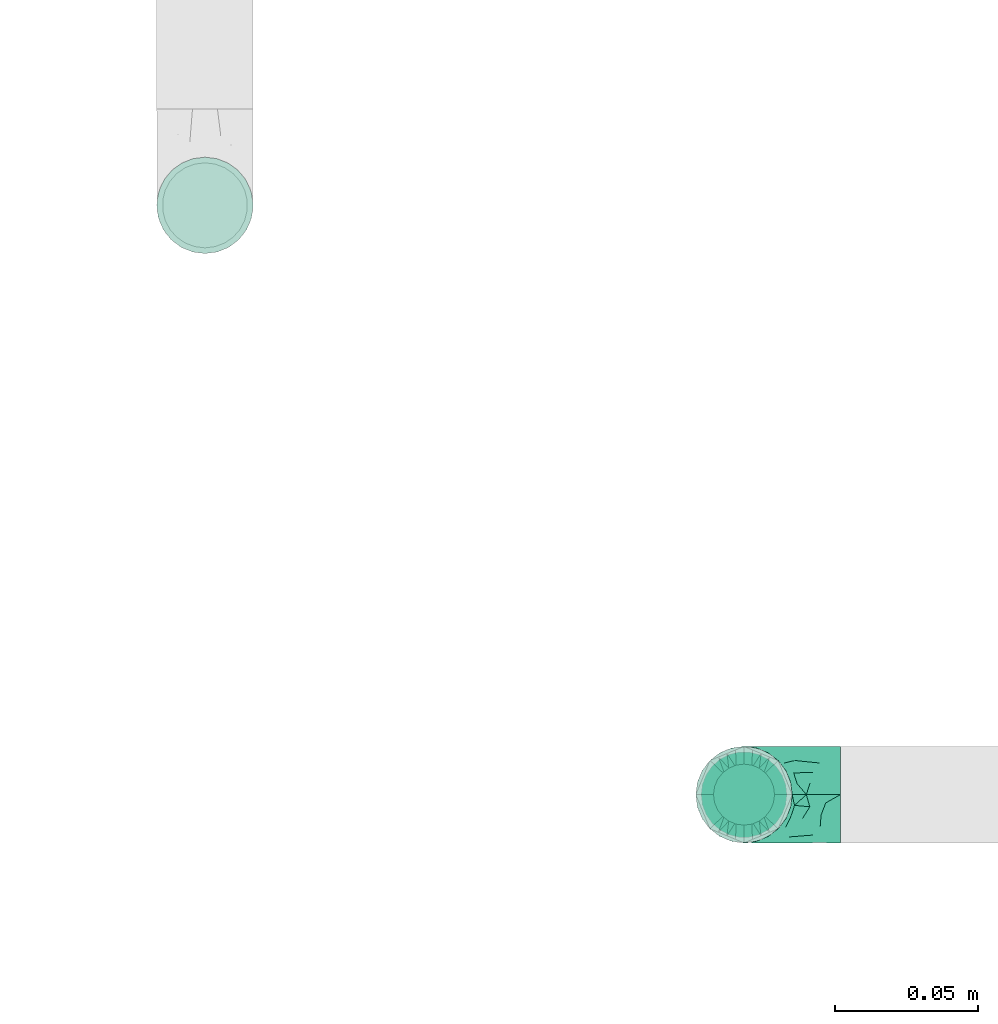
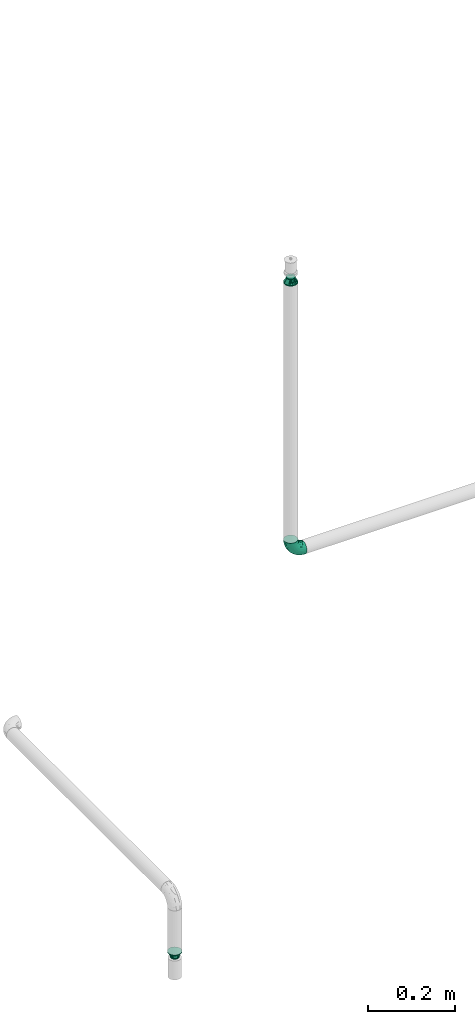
# One storey, part 22 of 94: 3 flow fittings.
"""IFC2X3 building model written with IfcOpenShell, lengths in millimetres."""

from ifc_helpers import new_model, entity, si_unit, converted_unit, derived_unit, direction, frame, origin_with_axes, place, context, subcontext, project, spatial, open_shell, surface_model, source, transform, mapped, type_object, element, save


model = new_model("IFC2X3")

# Units and contexts
model_context = context("Model", 3, precision=0.01, world=frame((0.0, 4.29681676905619e-09, 0.0)), true_north=direction((4.01073788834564e-13, 1.0)))
plan_context = context("Plan", 3, precision=0.01, world=frame((0.0, 4.29681676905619e-09, 0.0)), true_north=direction((4.01073788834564e-13, 1.0)))
body_context = subcontext(model_context, "Body", "Model", "MODEL_VIEW")
ifc_project = project(units=[converted_unit("PLANEANGLEUNIT", "DEGREE", entity("IfcPositiveLengthMeasure", 0.0174532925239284), si_unit("PLANEANGLEUNIT", "RADIAN"), dimensions=[0, 0, 0, 0, 0, 0, 0]), si_unit("AREAUNIT", "SQUARE_METRE"), si_unit("LENGTHUNIT", "METRE", prefix="MILLI"), si_unit("MASSUNIT", "GRAM", prefix="KILO"), si_unit("POWERUNIT", "WATT"), si_unit("PRESSUREUNIT", "PASCAL", prefix="KILO"), si_unit("FORCEUNIT", "NEWTON", prefix="KILO"), si_unit("ELECTRICVOLTAGEUNIT", "VOLT"), si_unit("ELECTRICCURRENTUNIT", "AMPERE"), si_unit("THERMODYNAMICTEMPERATUREUNIT", "DEGREE_CELSIUS"), si_unit("TIMEUNIT", "SECOND"), si_unit("VOLUMEUNIT", "CUBIC_METRE"), derived_unit("LINEARVELOCITYUNIT", [(si_unit("LENGTHUNIT", "METRE"), 1), (si_unit("TIMEUNIT", "SECOND"), -1)]), derived_unit("VOLUMETRICFLOWRATEUNIT", [(si_unit("VOLUMEUNIT", "CUBIC_METRE"), 1), (si_unit("TIMEUNIT", "SECOND"), -1)]), derived_unit("THERMALTRANSMITTANCEUNIT", [(si_unit("POWERUNIT", "WATT"), 1), (si_unit("THERMODYNAMICTEMPERATUREUNIT", "KELVIN"), -1), (si_unit("AREAUNIT", "SQUARE_METRE"), -1)]), derived_unit("SOUNDPRESSUREUNIT", [(si_unit("PRESSUREUNIT", "PASCAL"), 1)])], contexts=[model_context, plan_context])

# Site, building, storey
site_placement = place(None, frame((0.0, -4.29681676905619e-09, 0.0), z_axis=(0.0, 0.0, 1.0), x_axis=(1.0, 0.0, 0.0)))
site = spatial("IfcSite", under=ifc_project, at=site_placement, CompositionType="ELEMENT")
building_placement = place(site_placement, frame((0.0, 4.29681676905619e-09, 0.0), z_axis=(0.0, 0.0, 1.0), x_axis=(1.0, 0.0, 0.0)))
building = spatial("IfcBuilding", under=site, at=building_placement, Name="mc-building", CompositionType="ELEMENT")
storey_placement = place(building_placement, frame((0.0, 0.0, 210900.0), z_axis=(0.0, 0.0, 1.0), x_axis=(1.0, 0.0, 0.0)))
storey = spatial("IfcBuildingStorey", under=building, at=storey_placement, Name="Nivå F", CompositionType="ELEMENT", Elevation=210900.0)

# Flow fittings
pipe_fitting_type_1 = type_object("IfcPipeFittingType", Name="magi_pipe_fe_reducer_centric_short_NOR", PredefinedType="TRANSITION")
shared_shape_1 = source(origin_with_axes(), body_context, "Body", "SurfaceModel", [
    surface_model("IfcShellBasedSurfaceModel", [(14.4, 5.35, -9.26647), (14.4, 0.0, -10.7), (14.4, 2.76936, -10.33541), (14.4, 10.33541, -2.76936), (14.4, 7.56604, -7.56604), (14.4, -10.33541, -2.76936), (14.4, 9.26647, -5.35), (14.4, 0.0, 10.7), (14.4, -5.35, -9.26647), (14.4, -2.76936, -10.33541), (14.4, -7.56604, -7.56604), (14.4, -9.26647, -5.35), (14.4, 10.7, 0.0), (14.4, 10.33541, 2.76936), (14.4, 9.26647, 5.35), (14.4, 7.56604, 7.56604), (14.4, 2.76936, 10.33541), (14.4, 5.35, 9.26647), (14.4, -10.33541, 2.76936), (14.4, -7.56604, 7.56604), (14.4, -9.26647, 5.35), (14.4, -10.7, 0.0), (14.4, -2.76936, 10.33541), (14.4, -5.35, 9.26647), (12.4, 2.76936, 10.33541), (12.4, -10.33541, -2.76936), (12.4, 0.0, 10.7), (12.4, 5.35, 9.26647), (12.4, 7.56604, 7.56604), (12.4, 9.26647, 5.35), (12.4, 10.33541, 2.76936), (12.4, -10.33541, 2.76936), (12.4, -2.76936, 10.33541), (12.4, -7.56604, 7.56604), (12.4, -5.35, 9.26647), (12.4, -9.26647, 5.35), (12.4, -10.7, 0.0), (12.4, 10.33541, -2.76936), (12.4, 5.35, -9.26647), (12.4, 9.26647, -5.35), (12.4, 7.56604, -7.56604), (12.4, 2.76936, -10.33541), (12.4, -9.26647, -5.35), (12.4, -5.35, -9.26647), (12.4, -7.56604, -7.56604), (12.4, 0.0, -10.7), (12.4, -2.76936, -10.33541), (12.4, 10.7, 0.0), (-2.0, 11.9501, 11.9501), (-2.0, 0.0, 16.9), (-2.0, 4.37404, 16.32415), (-2.0, 8.45, 14.63583), (-2.0, 14.63583, 8.45), (-2.0, 16.32415, 4.37404), (-2.0, -16.32415, 4.37404), (-2.0, -8.45, 14.63583), (-2.0, -14.63583, 8.45), (-2.0, -11.9501, 11.9501), (-2.0, -4.37404, 16.32415), (-2.0, -16.32415, -4.37404), (-2.0, -16.9, 0.0), (-2.0, -8.45, -14.63583), (-2.0, 16.32415, -4.37404), (-2.0, 11.9501, -11.9501), (-2.0, 14.63583, -8.45), (-2.0, 8.45, -14.63583), (-2.0, 4.37404, -16.32415), (-2.0, 0.0, -16.9), (-2.0, -11.9501, -11.9501), (-2.0, -14.63583, -8.45), (-2.0, -4.37404, -16.32415), (-2.0, 16.9, 0.0), (0.0, 4.37404, -16.32415), (0.0, 8.45, -14.63583), (0.0, 11.9501, -11.9501), (0.0, 0.0, -16.9), (0.0, 16.32415, -4.37404), (0.0, 16.32415, 4.37404), (0.0, 14.63583, -8.45), (0.0, -8.45, -14.63583), (0.0, -4.37404, -16.32415), (0.0, -11.9501, -11.9501), (0.0, -16.32415, -4.37404), (0.0, -14.63583, -8.45), (0.0, -16.32415, 4.37404), (0.0, 16.9, 0.0), (0.0, 14.63583, 8.45), (0.0, 11.9501, 11.9501), (0.0, 4.37404, 16.32415), (0.0, 8.45, 14.63583), (0.0, 0.0, 16.9), (0.0, -14.63583, 8.45), (0.0, -16.9, 0.0), (0.0, -8.45, 14.63583), (0.0, -11.9501, 11.9501), (0.0, -4.37404, 16.32415), (12.4, 9.3625, -2.31662), (0.0, 14.42505, -5.97505), (0.0, 15.66253, -2.98753), (12.4, -6.6875, -6.94985), (0.0, -13.18758, -8.96258), (0.0, 2.98753, -15.66253), (12.4, 0.0, -9.26647), (12.4, 6.6875, -6.94985), (0.0, 8.96258, -13.18758), (12.4, -9.3625, -2.31662), (0.0, -15.66253, -2.98753), (0.0, -14.42505, -5.97505), (0.0, 5.97505, -14.42505), (0.0, -2.98753, -15.66253), (0.0, -8.96258, -13.18758), (0.0, 13.18758, -8.96258), (12.4, 8.025, -4.63324), (12.4, -2.675, -9.26647), (12.4, 2.675, -9.26647), (0.0, -5.97505, -14.42505), (12.4, -8.025, -4.63324), (12.4, -9.3625, 2.31662), (0.0, -14.42505, 5.97505), (0.0, -15.66253, 2.98753), (12.4, 6.6875, 6.94985), (0.0, 13.18758, 8.96258), (0.0, -2.98753, 15.66253), (12.4, 0.0, 9.26647), (12.4, -6.6875, 6.94985), (0.0, -8.96258, 13.18758), (12.4, 9.3625, 2.31662), (0.0, 15.66253, 2.98753), (0.0, 14.42505, 5.97505), (0.0, -5.97505, 14.42505), (0.0, 2.98753, 15.66253), (0.0, 8.96258, 13.18758), (0.0, -13.18758, 8.96258), (12.4, -8.025, 4.63324), (12.4, 2.675, 9.26647), (12.4, -2.675, 9.26647), (0.0, 5.97505, 14.42505), (12.4, 8.025, 4.63324)], [open_shell([[[0, 1, 2]], [[3, 0, 4]], [[5, 0, 3]], [[3, 4, 6]], [[7, 5, 3]], [[1, 8, 9]], [[1, 0, 8]], [[10, 5, 11]], [[5, 10, 8]], [[0, 5, 8]], [[3, 12, 13]], [[13, 14, 15]], [[13, 15, 16]], [[7, 3, 16]], [[16, 15, 17]], [[7, 18, 5]], [[18, 19, 20]], [[21, 5, 18]], [[19, 22, 23]], [[22, 19, 18]], [[7, 22, 18]], [[13, 16, 3]], [[24, 25, 26]], [[27, 25, 24]], [[28, 29, 30]], [[28, 25, 27]], [[31, 26, 25]], [[32, 33, 34]], [[33, 32, 31]], [[33, 31, 35]], [[32, 26, 31]], [[31, 25, 36]], [[30, 37, 28]], [[25, 28, 37]], [[38, 37, 39]], [[37, 38, 25]], [[38, 39, 40]], [[41, 25, 38]], [[42, 43, 44]], [[43, 42, 25]], [[43, 45, 46]], [[43, 25, 41]], [[41, 45, 43]], [[37, 30, 47]], [[25, 5, 36]], [[42, 11, 25]], [[8, 44, 43]], [[42, 44, 10]], [[9, 43, 46]], [[25, 11, 5]], [[5, 21, 36]], [[9, 8, 43]], [[10, 44, 8]], [[10, 11, 42]], [[1, 9, 46]], [[46, 45, 1]], [[41, 2, 45]], [[38, 0, 41]], [[6, 40, 39]], [[38, 40, 4]], [[3, 39, 37]], [[38, 4, 0]], [[0, 2, 41]], [[12, 3, 37]], [[6, 39, 3]], [[6, 4, 40]], [[47, 12, 37]], [[45, 2, 1]], [[30, 13, 47]], [[29, 14, 30]], [[17, 28, 27]], [[29, 28, 15]], [[16, 27, 24]], [[30, 14, 13]], [[13, 12, 47]], [[16, 17, 27]], [[15, 28, 17]], [[15, 14, 29]], [[7, 16, 24]], [[24, 26, 7]], [[32, 22, 26]], [[34, 23, 32]], [[20, 33, 35]], [[34, 33, 19]], [[18, 35, 31]], [[34, 19, 23]], [[23, 22, 32]], [[21, 18, 31]], [[20, 35, 18]], [[20, 19, 33]], [[36, 21, 31]], [[26, 22, 7]], [[48, 49, 50]], [[48, 50, 51]], [[48, 52, 53]], [[48, 53, 49]], [[49, 53, 54]], [[55, 56, 57]], [[55, 58, 49]], [[56, 55, 49]], [[49, 54, 56]], [[54, 59, 60]], [[54, 53, 61]], [[53, 62, 63]], [[63, 62, 64]], [[63, 65, 66]], [[61, 53, 63]], [[67, 63, 66]], [[59, 68, 69]], [[68, 59, 61]], [[61, 67, 70]], [[59, 54, 61]], [[63, 67, 61]], [[53, 71, 62]], [[72, 73, 74]], [[75, 72, 74]], [[74, 76, 77]], [[76, 74, 78]], [[74, 77, 79]], [[75, 79, 80]], [[75, 74, 79]], [[81, 82, 83]], [[82, 81, 79]], [[79, 84, 82]], [[77, 76, 85]], [[77, 86, 87]], [[77, 87, 88]], [[88, 84, 79]], [[88, 87, 89]], [[84, 88, 90]], [[90, 91, 84]], [[92, 82, 84]], [[91, 93, 94]], [[91, 90, 93]], [[93, 90, 95]], [[79, 77, 88]], [[59, 82, 60]], [[69, 83, 59]], [[79, 68, 61]], [[69, 68, 81]], [[80, 61, 70]], [[59, 83, 82]], [[82, 92, 60]], [[80, 79, 61]], [[81, 68, 79]], [[81, 83, 69]], [[75, 80, 70]], [[70, 67, 75]], [[66, 72, 67]], [[65, 73, 66]], [[78, 63, 64]], [[65, 63, 74]], [[76, 64, 62]], [[65, 74, 73]], [[73, 72, 66]], [[85, 76, 62]], [[78, 64, 76]], [[78, 74, 63]], [[71, 85, 62]], [[67, 72, 75]], [[53, 77, 71]], [[52, 86, 53]], [[89, 48, 51]], [[52, 48, 87]], [[88, 51, 50]], [[53, 86, 77]], [[77, 85, 71]], [[88, 89, 51]], [[87, 48, 89]], [[87, 86, 52]], [[90, 88, 50]], [[50, 49, 90]], [[58, 95, 49]], [[55, 93, 58]], [[91, 57, 56]], [[55, 57, 94]], [[84, 56, 54]], [[55, 94, 93]], [[93, 95, 58]], [[92, 84, 54]], [[91, 56, 84]], [[91, 94, 57]], [[60, 92, 54]], [[49, 95, 90]], [[27, 34, 47]], [[47, 34, 43]], [[43, 38, 47]], [[43, 34, 36]], [[90, 87, 94]], [[92, 94, 87]], [[87, 74, 92]], [[75, 92, 74]], [[81, 92, 75]], [[74, 87, 85]], [[96, 97, 98]], [[81, 99, 100]], [[101, 102, 75]], [[98, 85, 47]], [[74, 103, 104]], [[104, 103, 38]], [[105, 106, 107]], [[38, 108, 104]], [[102, 109, 75]], [[110, 99, 81]], [[47, 96, 98]], [[103, 111, 112]], [[109, 102, 113]], [[36, 92, 106]], [[102, 101, 114]], [[110, 115, 43]], [[96, 112, 97]], [[107, 116, 105]], [[36, 106, 105]], [[113, 115, 109]], [[43, 115, 113]], [[116, 107, 100]], [[108, 38, 114]], [[111, 103, 74]], [[111, 97, 112]], [[99, 110, 43]], [[116, 100, 99]], [[101, 108, 114]], [[117, 118, 119]], [[87, 120, 121]], [[122, 123, 90]], [[119, 92, 36]], [[94, 124, 125]], [[125, 124, 34]], [[126, 127, 128]], [[34, 129, 125]], [[123, 130, 90]], [[131, 120, 87]], [[36, 117, 119]], [[124, 132, 133]], [[130, 123, 134]], [[47, 85, 127]], [[123, 122, 135]], [[131, 136, 27]], [[117, 133, 118]], [[128, 137, 126]], [[47, 127, 126]], [[134, 136, 130]], [[27, 136, 134]], [[137, 128, 121]], [[129, 34, 135]], [[132, 124, 94]], [[132, 118, 133]], [[120, 131, 27]], [[137, 121, 120]], [[122, 129, 135]]])]),
])
flow_fitting_1_placement = place(storey_placement, frame((716188.9668, 435194.37907, 4357.64799999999), z_axis=(-0.000893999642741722, -0.99999960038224, 0.0), x_axis=(0.0, 0.0, 1.0)))
element("IfcFlowFitting", 1, at=flow_fitting_1_placement, inside=storey, type_object=pipe_fitting_type_1, Name="magi_pipe_fe_reducer_centric_short_NOR", context=body_context, shape_type="MappedRepresentation", body=[
    mapped(shared_shape_1, transform((0.0, 0.0, 0.0), scale=1.0)),
])
pipe_fitting_type_2 = type_object("IfcPipeFittingType", Name="magi_pipe_fe_elbow_short_001", PredefinedType="BEND")
shared_shape_2 = source(origin_with_axes(), body_context, "Body", "SurfaceModel", [
    surface_model("IfcShellBasedSurfaceModel", [(-33.8, 8.45, -14.63583), (-33.8, 4.37404, -16.32415), (-33.8, 11.9501, -11.9501), (-33.8, -11.9501, -11.9501), (-33.8, -14.63583, -8.45), (-33.8, -8.45, -14.63583), (-33.8, 0.0, -16.9), (-33.8, -4.37404, -16.32415), (-33.8, -4.37404, 16.32415), (-33.8, 0.0, 16.9), (-33.8, -8.45, 14.63583), (-33.8, 16.32415, -4.37404), (-33.8, 14.63583, -8.45), (-33.8, -16.32415, -4.37404), (-33.8, -16.9, 0.0), (-33.8, -16.32415, 4.37404), (-33.8, 11.9501, 11.9501), (-33.8, 14.63583, 8.45), (-33.8, 16.32415, 4.37404), (-33.8, 4.37404, 16.32415), (-33.8, 8.45, 14.63583), (-33.8, -14.63583, 8.45), (-33.8, -11.9501, 11.9501), (-33.8, 16.9, 0.0), (-11.9501, 33.8, -11.9501), (0.0, 33.8, -16.9), (-4.37404, 33.8, -16.32415), (-8.45, 33.8, -14.63583), (-14.63583, 33.8, -8.45), (-16.32415, 33.8, -4.37404), (14.63583, 33.8, -8.45), (8.45, 33.8, 14.63583), (16.32415, 33.8, -4.37404), (8.45, 33.8, -14.63583), (11.9501, 33.8, -11.9501), (4.37404, 33.8, -16.32415), (16.32415, 33.8, 4.37404), (16.9, 33.8, 0.0), (-11.9501, 33.8, 11.9501), (-16.32415, 33.8, 4.37404), (-14.63583, 33.8, 8.45), (-8.45, 33.8, 14.63583), (-4.37404, 33.8, 16.32415), (11.9501, 33.8, 11.9501), (14.63583, 33.8, 8.45), (0.0, 33.8, 16.9), (4.37404, 33.8, 16.32415), (-16.9, 33.8, 0.0), (-24.79389, -13.12945, 9.48721), (-22.19287, -9.75018, 12.59315), (-24.09897, -14.97035, 0.0), (-14.93934, -10.76256, 8.5297), (-22.46095, -14.75051, 5.27077), (14.75051, 22.46094, 5.27077), (11.9251, 13.23888, 4.33236), (13.04069, 14.39795, 0.0), (7.71387, 13.68847, 11.55891), (9.75018, 22.19287, 12.59315), (4.10169, 13.0571, 14.04018), (-24.84007, -6.39063, 15.2048), (-25.81779, -2.23879, 16.61097), (-23.66549, 2.59054, 16.87119), (-26.50418, 14.06512, 11.08152), (-24.21253, 17.66365, 7.72657), (-29.58514, 15.86957, 7.00283), (-6.17382, -7.5455, 0.0), (-13.23888, -11.9251, 4.33236), (-14.39795, -13.04069, 0.0), (-17.81434, 18.87373, 11.97104), (-6.30846, 29.15138, 15.82987), (-2.31622, 25.28002, 16.85849), (-29.23923, 10.23435, 13.77053), (-1.45439, -2.85688, 7.61475), (-0.28326, 0.34872, 10.09509), (-5.74484, -4.04709, 10.4122), (-4.41137, 11.31918, 16.59407), (-8.39727, 3.10034, 15.7812), (-1.72649, 9.1306, 15.53089), (-17.39909, 24.75344, 7.64977), (-26.19233, 20.0512, 0.0), (-28.14518, 17.29657, 4.25857), (-26.05147, 6.6281, 15.96447), (-5.87354, 16.61944, 16.86968), (-12.51807, 12.51807, 16.48937), (-10.06312, 7.38516, 16.81295), (-3.01882, 3.01882, 13.81718), (-13.0571, -4.10169, 14.04018), (-16.82553, -0.15166, 16.38038), (10.76256, 14.93934, 8.5297), (13.12945, 24.79389, 9.48721), (6.39063, 24.84007, 15.2048), (2.23879, 25.81779, 16.61097), (-13.68847, -7.71387, 11.55891), (14.97035, 24.09897, 0.0), (-7.30894, 22.89991, 16.09489), (-10.67958, 26.17414, 14.008), (-12.78295, 18.26924, 15.06066), (-13.88562, 22.45231, 12.93244), (-18.04944, 15.16501, 14.04434), (-23.11658, 20.08178, 4.02986), (-21.84989, 21.84989, 0.0), (-18.55817, 25.48277, 3.93065), (-13.95142, 26.94732, 11.03289), (-18.57098, 7.23906, 16.59756), (-16.58335, 4.14122, 16.89279), (-17.96666, 11.46709, 15.63151), (-9.84453, 17.54304, 16.18938), (0.15166, 16.82553, 16.38038), (-23.27207, 11.47201, 14.23154), (3.84842, 5.86994, 10.70473), (-8.0212, -7.54413, 7.93275), (1.00345, -2.19508, 4.57414), (5.13203, 3.01004, 5.90201), (5.24161, 1.7543, 2.53265), (8.70457, 7.04947, 3.99182), (-20.0512, 26.19233, 0.0), (8.4852, 8.76699, 7.09296), (-4.55488, -6.72064, 4.90681), (2.05031, -2.05031, 0.0), (7.5455, 6.17382, 0.0), (-26.75399, 2.1369, -16.845), (-14.61995, 24.73803, -11.27736), (-28.45274, -13.45335, -9.81895), (-26.00469, 6.63555, -15.96645), (-23.06726, 20.04573, -4.26202), (-13.80647, -4.26506, -14.17873), (-14.67501, -0.21081, -16.07388), (-6.7902, -0.2828, -13.8478), (-24.53586, 11.08096, -14.13417), (-26.72048, 14.00837, -11.05776), (10.0967, 24.44989, -12.75976), (5.83237, 21.40218, -15.03047), (6.66249, 28.54238, -15.38093), (-20.38182, 15.48705, -12.74596), (12.53268, 21.23441, -9.15363), (12.54494, 15.67504, -5.54878), (9.7522, 12.89279, -8.66343), (-15.65186, 19.64213, -13.01327), (-12.03528, 20.66498, -14.67665), (-15.61907, 15.61906, -14.83879), (-25.56551, -15.26206, 0.0), (-24.65452, -15.12934, -5.50955), (13.45335, 28.45274, -9.81895), (15.12934, 24.65452, -5.50955), (-7.35442, -8.31014, -5.65563), (-15.67504, -12.54494, -5.54878), (-24.44989, -10.0967, -12.75976), (0.16522, 0.41303, -9.71728), (-5.70658, -5.33066, -8.89288), (-5.13869, -2.37198, -11.53565), (-21.23441, -12.53268, -9.15363), (0.71146, 7.93863, -14.09382), (0.21081, 14.67501, -16.07388), (3.49291, 14.42772, -14.76381), (-24.89911, -2.13088, -16.591), (-28.54238, -6.66249, -15.38093), (-18.44386, -7.71663, -13.26957), (2.13088, 24.89911, -16.591), (-28.64342, 17.44413, -2.89318), (1.70017, -1.28722, -5.09504), (-16.57067, 26.81947, -7.36596), (-17.69055, 27.4263, -3.76405), (-12.89279, -9.7522, -8.66343), (-5.96611, 5.96611, -15.95814), (-20.53709, 20.09345, -8.28985), (-2.1369, 26.75399, -16.845), (-6.89872, 24.58781, -16.02578), (-10.60739, 26.53157, -13.98044), (-21.40218, -5.83237, -15.03047), (2.93192, 5.89627, -11.55917), (6.89393, 12.61842, -11.82233), (5.58056, 5.95325, -8.79455), (-3.99512, 18.61798, -16.89635), (8.31014, 7.35442, -5.65563), (-9.1383, 9.86148, -16.89041), (-9.99983, 16.02119, -16.39699), (-16.68576, 9.78031, -16.34199), (-27.01915, 16.61158, -7.12979), (15.26206, 25.56551, 0.0), (-18.61798, 3.99512, -16.89635), (-19.37495, 27.82495, 0.0), (-12.61842, -6.89393, -11.82233), (-18.84705, 19.14018, -10.96545)], [open_shell([[[0, 1, 2]], [[3, 4, 5]], [[6, 7, 5]], [[8, 9, 10]], [[1, 6, 2]], [[11, 12, 2]], [[4, 2, 6]], [[2, 13, 10]], [[5, 4, 6]], [[2, 4, 13]], [[14, 15, 13]], [[11, 2, 16]], [[11, 17, 18]], [[11, 16, 17]], [[19, 20, 16]], [[16, 2, 10]], [[19, 16, 10]], [[21, 22, 15]], [[22, 13, 15]], [[22, 10, 13]], [[10, 9, 19]], [[11, 18, 23]], [[24, 25, 26]], [[24, 26, 27]], [[24, 28, 29]], [[25, 24, 30]], [[31, 32, 24]], [[33, 30, 34]], [[33, 35, 25]], [[25, 30, 33]], [[32, 30, 24]], [[32, 36, 37]], [[38, 24, 29]], [[39, 40, 29]], [[40, 38, 29]], [[38, 41, 42]], [[38, 31, 24]], [[31, 38, 42]], [[36, 43, 44]], [[36, 32, 43]], [[31, 45, 46]], [[32, 31, 43]], [[42, 45, 31]], [[39, 29, 47]], [[22, 48, 49]], [[15, 14, 50]], [[51, 48, 52]], [[53, 54, 55]], [[48, 22, 21]], [[15, 52, 21]], [[56, 57, 58]], [[49, 10, 22]], [[49, 59, 10]], [[9, 60, 61]], [[62, 63, 64]], [[65, 66, 67]], [[57, 43, 31]], [[62, 68, 63]], [[42, 69, 70]], [[20, 71, 16]], [[8, 60, 9]], [[72, 73, 74]], [[75, 76, 77]], [[16, 62, 17]], [[40, 39, 78]], [[79, 23, 80]], [[64, 18, 17]], [[9, 61, 19]], [[19, 81, 20]], [[82, 83, 84]], [[74, 85, 86]], [[59, 86, 87]], [[88, 89, 57]], [[90, 31, 46]], [[44, 53, 36]], [[46, 45, 91]], [[54, 53, 88]], [[44, 89, 53]], [[92, 86, 49]], [[89, 44, 43]], [[10, 59, 8]], [[53, 55, 93]], [[93, 36, 53]], [[66, 52, 67]], [[94, 82, 70]], [[95, 96, 94]], [[97, 98, 96]], [[79, 99, 100]], [[41, 38, 95]], [[101, 100, 99]], [[68, 78, 63]], [[42, 41, 69]], [[23, 18, 80]], [[95, 94, 69]], [[78, 101, 99]], [[38, 102, 95]], [[70, 45, 42]], [[97, 95, 102]], [[15, 50, 52]], [[90, 57, 31]], [[57, 90, 58]], [[81, 19, 61]], [[103, 104, 84]], [[105, 81, 103]], [[38, 40, 102]], [[106, 96, 83]], [[94, 106, 82]], [[91, 70, 107]], [[71, 62, 16]], [[62, 108, 98]], [[86, 59, 49]], [[67, 52, 50]], [[60, 59, 87]], [[92, 49, 51]], [[86, 85, 76]], [[91, 90, 46]], [[37, 36, 93]], [[107, 77, 58]], [[107, 58, 90]], [[58, 85, 109]], [[110, 74, 92]], [[72, 74, 110]], [[66, 51, 52]], [[72, 111, 112]], [[113, 114, 112]], [[56, 88, 57]], [[52, 48, 21]], [[49, 48, 51]], [[57, 89, 43]], [[53, 89, 88]], [[103, 81, 61]], [[71, 81, 108]], [[18, 64, 80]], [[63, 78, 99]], [[47, 115, 101]], [[101, 115, 100]], [[40, 78, 102]], [[68, 102, 78]], [[97, 96, 95]], [[105, 98, 108]], [[103, 84, 83]], [[107, 70, 82]], [[76, 84, 87]], [[82, 84, 75]], [[70, 91, 45]], [[90, 91, 107]], [[59, 60, 8]], [[61, 60, 87]], [[73, 85, 74]], [[109, 112, 116]], [[103, 61, 104]], [[105, 103, 83]], [[96, 105, 83]], [[81, 105, 108]], [[96, 98, 105]], [[62, 98, 68]], [[61, 87, 104]], [[87, 84, 104]], [[86, 76, 87]], [[77, 76, 85]], [[58, 77, 85]], [[75, 77, 107]], [[82, 75, 107]], [[76, 75, 84]], [[81, 71, 20]], [[62, 71, 108]], [[95, 69, 41]], [[70, 69, 94]], [[62, 64, 17]], [[80, 63, 99]], [[63, 80, 64]], [[80, 99, 79]], [[66, 65, 117]], [[110, 66, 117]], [[112, 114, 116]], [[118, 117, 65]], [[110, 92, 51]], [[112, 111, 113]], [[119, 55, 54]], [[74, 86, 92]], [[58, 109, 56]], [[116, 56, 109]], [[66, 110, 51]], [[72, 110, 117]], [[111, 72, 117]], [[73, 112, 109]], [[117, 118, 111]], [[113, 111, 118]], [[118, 119, 113]], [[114, 119, 54]], [[119, 114, 113]], [[116, 54, 88]], [[54, 116, 114]], [[116, 88, 56]], [[112, 73, 72]], [[85, 73, 109]], [[78, 39, 101]], [[47, 101, 39]], [[102, 68, 97]], [[97, 68, 98]], [[82, 106, 83]], [[94, 96, 106]], [[1, 120, 6]], [[28, 24, 121]], [[3, 122, 4]], [[0, 123, 1]], [[100, 124, 79]], [[125, 126, 127]], [[128, 2, 129]], [[130, 131, 132]], [[128, 129, 133]], [[134, 135, 136]], [[137, 138, 139]], [[128, 0, 2]], [[67, 140, 141]], [[134, 142, 143]], [[141, 13, 4]], [[144, 65, 145]], [[146, 3, 5]], [[147, 148, 149]], [[145, 141, 150]], [[151, 152, 153]], [[154, 7, 6]], [[5, 155, 146]], [[150, 146, 156]], [[155, 5, 7]], [[143, 135, 134]], [[35, 157, 25]], [[23, 79, 158]], [[148, 159, 144]], [[160, 161, 29]], [[145, 162, 144]], [[163, 152, 151]], [[29, 28, 160]], [[121, 164, 160]], [[33, 34, 130]], [[25, 165, 26]], [[26, 165, 166]], [[142, 34, 30]], [[24, 27, 167]], [[124, 161, 164]], [[157, 35, 132]], [[155, 154, 168]], [[123, 0, 128]], [[169, 170, 171]], [[172, 157, 152]], [[26, 166, 27]], [[132, 35, 33]], [[142, 130, 34]], [[168, 154, 126]], [[136, 135, 173]], [[133, 137, 139]], [[2, 12, 129]], [[170, 131, 130]], [[30, 32, 143]], [[172, 174, 175]], [[176, 123, 128]], [[158, 177, 11]], [[135, 55, 119]], [[167, 27, 166]], [[175, 166, 172]], [[137, 167, 138]], [[122, 141, 4]], [[140, 14, 13]], [[32, 37, 178]], [[170, 130, 134]], [[152, 157, 131]], [[165, 157, 172]], [[153, 170, 151]], [[152, 163, 174]], [[168, 125, 156]], [[122, 146, 150]], [[120, 154, 6]], [[179, 174, 126]], [[179, 126, 154]], [[126, 163, 127]], [[162, 145, 150]], [[140, 13, 141]], [[32, 178, 143]], [[55, 143, 178]], [[177, 129, 12]], [[128, 133, 139]], [[176, 128, 139]], [[120, 123, 179]], [[121, 160, 28]], [[161, 100, 180]], [[166, 175, 138]], [[121, 24, 167]], [[161, 47, 29]], [[79, 124, 158]], [[124, 164, 177]], [[161, 124, 100]], [[136, 171, 170]], [[127, 163, 151]], [[147, 171, 159]], [[148, 144, 162]], [[127, 151, 169]], [[127, 181, 125]], [[129, 177, 164]], [[12, 11, 177]], [[159, 65, 144]], [[67, 141, 145]], [[143, 55, 135]], [[135, 119, 173]], [[123, 120, 1]], [[154, 120, 179]], [[157, 165, 25]], [[166, 165, 172]], [[172, 152, 174]], [[176, 139, 175]], [[126, 174, 163]], [[176, 174, 179]], [[174, 176, 175]], [[123, 176, 179]], [[150, 181, 162]], [[127, 149, 181]], [[181, 148, 162]], [[159, 148, 147]], [[171, 136, 173]], [[170, 134, 136]], [[159, 171, 173]], [[171, 147, 169]], [[169, 147, 149]], [[151, 170, 169]], [[164, 182, 129]], [[182, 121, 137]], [[181, 149, 148]], [[169, 149, 127]], [[182, 137, 133]], [[167, 137, 121]], [[166, 138, 167]], [[175, 139, 138]], [[129, 182, 133]], [[121, 182, 164]], [[161, 160, 164]], [[47, 161, 180]], [[177, 158, 124]], [[23, 158, 11]], [[130, 132, 33]], [[157, 132, 131]], [[143, 142, 30]], [[130, 142, 134]], [[154, 155, 7]], [[146, 155, 168]], [[146, 122, 3]], [[141, 122, 150]], [[152, 131, 153]], [[159, 119, 118]], [[67, 145, 65]], [[170, 153, 131]], [[119, 159, 173]], [[159, 118, 65]], [[156, 125, 181]], [[126, 125, 168]], [[150, 156, 181]], [[168, 156, 146]]])]),
])
flow_fitting_2_placement = place(storey_placement, frame((716188.9668, 435194.37907, 3600.0), z_axis=(0.0, 1.0, 0.0), x_axis=(-1.0, 0.0, 0.0)))
element("IfcFlowFitting", 2, at=flow_fitting_2_placement, inside=storey, type_object=pipe_fitting_type_2, Name="magi_pipe_fe_elbow_short_001", context=body_context, shape_type="MappedRepresentation", body=[
    mapped(shared_shape_2, transform((0.0, 0.0, 0.0), scale=1.0)),
])
shared_shape_3 = source(origin_with_axes(), body_context, "Body", "SurfaceModel", [
    surface_model("IfcShellBasedSurfaceModel", [(-2.0, -7.56604, -7.56604), (-2.0, -10.33541, -2.76936), (-2.0, -5.35, -9.26647), (-2.0, 5.35, -9.26647), (-2.0, 10.33541, -2.76936), (-2.0, 7.56604, -7.56604), (12.4, 11.9501, 11.9501), (12.4, 0.0, 16.9), (12.4, 11.9501, -11.9501), (12.4, 16.9, 0.0), (0.0, -10.7, 0.0), (0.0, -5.35, 9.26647), (0.0, -5.35, -9.26647), (0.0, 10.7, 0.0), (12.4, 15.66253, -2.98753), (12.4, 8.96258, -13.18758), (0.0, 6.6875, -6.94985), (12.4, -15.66253, -2.98753), (12.4, -16.9, 0.0), (12.4, 5.97505, -14.42505), (0.0, 5.35, -9.26647), (12.4, 14.42505, -5.97505), (0.0, 8.025, -4.63324), (0.0, 9.3625, -2.31662), (0.0, -9.3625, -2.31662), (0.0, -8.025, -4.63324), (12.4, -14.42505, -5.97505), (12.4, 13.18758, -8.96258), (12.4, -13.18758, -8.96258), (12.4, -11.9501, -11.9501), (0.0, -6.6875, -6.94985), (12.4, -8.96258, -13.18758), (12.4, -5.97505, -14.42505), (12.4, -15.66253, 2.98753), (12.4, -8.96258, 13.18758), (0.0, -6.6875, 6.94985), (12.4, -11.9501, 11.9501), (12.4, 15.66253, 2.98753), (12.4, -5.97505, 14.42505), (12.4, -14.42505, 5.97505), (0.0, -8.025, 4.63324), (0.0, -9.3625, 2.31662), (0.0, 9.3625, 2.31662), (0.0, 8.025, 4.63324), (12.4, 14.42505, 5.97505), (12.4, -13.18758, 8.96258), (12.4, 13.18758, 8.96258), (0.0, 6.6875, 6.94985), (12.4, 8.96258, 13.18758), (0.0, 5.35, 9.26647), (12.4, 5.97505, 14.42505), (14.4, 4.37404, -16.32415), (14.4, 8.45, -14.63583), (14.4, 11.9501, -11.9501), (14.4, -8.45, -14.63583), (14.4, 16.32415, -4.37404), (14.4, 16.32415, 4.37404), (14.4, 14.63583, -8.45), (14.4, 0.0, -16.9), (14.4, -4.37404, -16.32415), (14.4, -11.9501, -11.9501), (14.4, -16.32415, -4.37404), (14.4, -14.63583, -8.45), (14.4, -16.32415, 4.37404), (14.4, 16.9, 0.0), (14.4, 14.63583, 8.45), (14.4, 11.9501, 11.9501), (14.4, 4.37404, 16.32415), (14.4, 8.45, 14.63583), (14.4, 0.0, 16.9), (14.4, -14.63583, 8.45), (14.4, -16.9, 0.0), (14.4, -8.45, 14.63583), (14.4, -11.9501, 11.9501), (14.4, -4.37404, 16.32415), (12.4, 4.37404, 16.32415), (12.4, -14.63583, 8.45), (12.4, 16.32415, 4.37404), (12.4, 8.45, 14.63583), (12.4, 14.63583, 8.45), (12.4, -8.45, 14.63583), (12.4, -4.37404, 16.32415), (12.4, -16.32415, 4.37404), (12.4, -16.32415, -4.37404), (12.4, -8.45, -14.63583), (12.4, 16.32415, -4.37404), (12.4, 14.63583, -8.45), (12.4, 8.45, -14.63583), (12.4, 4.37404, -16.32415), (12.4, 0.0, -16.9), (12.4, -14.63583, -8.45), (12.4, -4.37404, -16.32415), (-2.0, 2.76936, 10.33541), (-2.0, 0.0, 10.7), (-2.0, 5.35, 9.26647), (-2.0, 7.56604, 7.56604), (-2.0, 9.26647, 5.35), (-2.0, 10.33541, 2.76936), (-2.0, -10.33541, 2.76936), (-2.0, -2.76936, 10.33541), (-2.0, -7.56604, 7.56604), (-2.0, -5.35, 9.26647), (-2.0, -9.26647, 5.35), (-2.0, -10.7, 0.0), (-2.0, 9.26647, -5.35), (-2.0, 2.76936, -10.33541), (-2.0, -9.26647, -5.35), (-2.0, 0.0, -10.7), (-2.0, -2.76936, -10.33541), (-2.0, 10.7, 0.0), (0.0, 0.0, -10.7), (0.0, 2.76936, -10.33541), (0.0, 10.33541, -2.76936), (0.0, 7.56604, -7.56604), (0.0, -10.33541, -2.76936), (0.0, 9.26647, -5.35), (0.0, 0.0, 10.7), (0.0, -2.76936, -10.33541), (0.0, -7.56604, -7.56604), (0.0, -9.26647, -5.35), (0.0, 10.33541, 2.76936), (0.0, 9.26647, 5.35), (0.0, 7.56604, 7.56604), (0.0, 2.76936, 10.33541), (0.0, -7.56604, 7.56604), (0.0, -10.33541, 2.76936), (0.0, -9.26647, 5.35), (0.0, -2.76936, 10.33541), (0.0, 2.675, -9.26647), (0.0, -2.675, -9.26647), (12.4, 2.98753, -15.66253), (0.0, 0.0, -9.26647), (12.4, -2.98753, -15.66253), (0.0, -2.675, 9.26647), (0.0, 2.675, 9.26647), (12.4, -2.98753, 15.66253), (0.0, 0.0, 9.26647), (12.4, 2.98753, 15.66253)], [open_shell([[[0, 1, 2]], [[3, 4, 5]], [[6, 7, 8]], [[8, 9, 6]], [[10, 11, 12]], [[13, 9, 14]], [[15, 16, 8]], [[17, 18, 10]], [[15, 19, 20]], [[21, 22, 23]], [[24, 25, 26]], [[22, 21, 27]], [[28, 26, 25]], [[29, 30, 31]], [[12, 32, 31]], [[10, 18, 33]], [[34, 35, 36]], [[37, 9, 13]], [[34, 38, 11]], [[39, 40, 41]], [[42, 43, 44]], [[40, 39, 45]], [[46, 44, 43]], [[6, 47, 48]], [[49, 50, 48]], [[51, 52, 53]], [[54, 51, 53]], [[53, 55, 56]], [[55, 53, 57]], [[53, 56, 54]], [[58, 54, 59]], [[58, 51, 54]], [[60, 61, 62]], [[61, 60, 54]], [[54, 63, 61]], [[56, 55, 64]], [[56, 65, 66]], [[56, 66, 67]], [[67, 63, 54]], [[67, 66, 68]], [[63, 67, 69]], [[69, 70, 63]], [[71, 61, 63]], [[70, 72, 73]], [[70, 69, 72]], [[72, 69, 74]], [[54, 56, 67]], [[75, 76, 7]], [[77, 75, 78]], [[6, 79, 77]], [[6, 77, 78]], [[76, 75, 77]], [[80, 76, 36]], [[80, 81, 7]], [[7, 76, 80]], [[82, 76, 77]], [[82, 83, 18]], [[82, 77, 84]], [[77, 85, 8]], [[8, 85, 86]], [[8, 87, 88]], [[84, 77, 8]], [[88, 89, 8]], [[83, 29, 90]], [[29, 83, 84]], [[84, 89, 91]], [[83, 82, 84]], [[8, 89, 84]], [[85, 77, 9]], [[83, 61, 18]], [[90, 62, 83]], [[54, 29, 84]], [[90, 29, 60]], [[59, 84, 91]], [[83, 62, 61]], [[61, 71, 18]], [[59, 54, 84]], [[60, 29, 54]], [[60, 62, 90]], [[58, 59, 91]], [[91, 89, 58]], [[88, 51, 89]], [[87, 52, 88]], [[57, 8, 86]], [[87, 8, 53]], [[55, 86, 85]], [[87, 53, 52]], [[52, 51, 88]], [[64, 55, 85]], [[57, 86, 55]], [[57, 53, 8]], [[9, 64, 85]], [[89, 51, 58]], [[77, 56, 9]], [[79, 65, 77]], [[68, 6, 78]], [[79, 6, 66]], [[67, 78, 75]], [[77, 65, 56]], [[56, 64, 9]], [[67, 68, 78]], [[66, 6, 68]], [[66, 65, 79]], [[69, 67, 75]], [[75, 7, 69]], [[81, 74, 7]], [[80, 72, 81]], [[70, 36, 76]], [[80, 36, 73]], [[63, 76, 82]], [[80, 73, 72]], [[72, 74, 81]], [[71, 63, 82]], [[70, 76, 63]], [[70, 73, 36]], [[18, 71, 82]], [[7, 74, 69]], [[92, 1, 93]], [[94, 1, 92]], [[95, 96, 97]], [[95, 97, 94]], [[98, 93, 1]], [[99, 100, 101]], [[99, 93, 100]], [[100, 98, 102]], [[93, 98, 100]], [[98, 1, 103]], [[94, 97, 1]], [[1, 97, 4]], [[5, 4, 104]], [[4, 3, 1]], [[105, 1, 3]], [[1, 0, 106]], [[2, 107, 108]], [[2, 1, 105]], [[105, 107, 2]], [[4, 97, 109]], [[20, 110, 111]], [[112, 20, 113]], [[114, 20, 112]], [[112, 113, 115]], [[116, 114, 112]], [[110, 12, 117]], [[110, 20, 12]], [[118, 114, 119]], [[114, 118, 12]], [[20, 114, 12]], [[112, 13, 120]], [[120, 121, 122]], [[120, 122, 123]], [[116, 112, 123]], [[123, 122, 49]], [[116, 124, 114]], [[125, 124, 126]], [[10, 114, 125]], [[124, 127, 11]], [[125, 114, 124]], [[127, 124, 116]], [[123, 112, 120]], [[1, 114, 103]], [[106, 119, 1]], [[12, 0, 2]], [[106, 0, 118]], [[117, 2, 108]], [[1, 119, 114]], [[114, 10, 103]], [[117, 12, 2]], [[118, 0, 12]], [[118, 119, 106]], [[110, 117, 108]], [[108, 107, 110]], [[105, 111, 107]], [[3, 20, 105]], [[115, 5, 104]], [[3, 5, 113]], [[112, 104, 4]], [[3, 113, 20]], [[20, 111, 105]], [[13, 112, 4]], [[115, 104, 112]], [[115, 113, 5]], [[109, 13, 4]], [[107, 111, 110]], [[97, 120, 109]], [[96, 121, 97]], [[49, 95, 94]], [[96, 95, 122]], [[123, 94, 92]], [[97, 121, 120]], [[120, 13, 109]], [[123, 49, 94]], [[122, 95, 49]], [[122, 121, 96]], [[116, 123, 92]], [[92, 93, 116]], [[99, 127, 93]], [[101, 11, 99]], [[126, 100, 102]], [[101, 100, 124]], [[125, 102, 98]], [[101, 124, 11]], [[11, 127, 99]], [[10, 125, 98]], [[126, 102, 125]], [[126, 124, 100]], [[103, 10, 98]], [[93, 127, 116]], [[18, 7, 36]], [[18, 29, 8]], [[89, 8, 29]], [[18, 8, 7]], [[13, 11, 49]], [[13, 20, 12]], [[13, 12, 11]], [[24, 26, 17]], [[10, 24, 17]], [[16, 15, 20]], [[30, 12, 31]], [[23, 14, 21]], [[19, 128, 20]], [[27, 8, 16]], [[32, 12, 129]], [[30, 28, 25]], [[130, 131, 128]], [[129, 132, 32]], [[16, 22, 27]], [[13, 14, 23]], [[128, 19, 130]], [[130, 89, 131]], [[131, 132, 129]], [[89, 132, 131]], [[28, 30, 29]], [[42, 44, 37]], [[13, 42, 37]], [[35, 34, 11]], [[47, 49, 48]], [[41, 33, 39]], [[38, 133, 11]], [[45, 36, 35]], [[50, 49, 134]], [[47, 46, 43]], [[135, 136, 133]], [[134, 137, 50]], [[35, 40, 45]], [[10, 33, 41]], [[133, 38, 135]], [[135, 7, 136]], [[136, 137, 134]], [[7, 137, 136]], [[46, 47, 6]]])]),
])
flow_fitting_3_placement = place(storey_placement, frame((716000.0, 435400.95076, 2403.04800000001), z_axis=(-1.0, 0.0, 0.0), x_axis=(0.0, 0.0, 1.0)))
element("IfcFlowFitting", 3, at=flow_fitting_3_placement, inside=storey, type_object=pipe_fitting_type_1, Name="magi_pipe_fe_reducer_centric_short_NOR", context=body_context, shape_type="MappedRepresentation", body=[
    mapped(shared_shape_3, transform((0.0, 0.0, 0.0), scale=1.0)),
])

save(model, "model.ifc")
